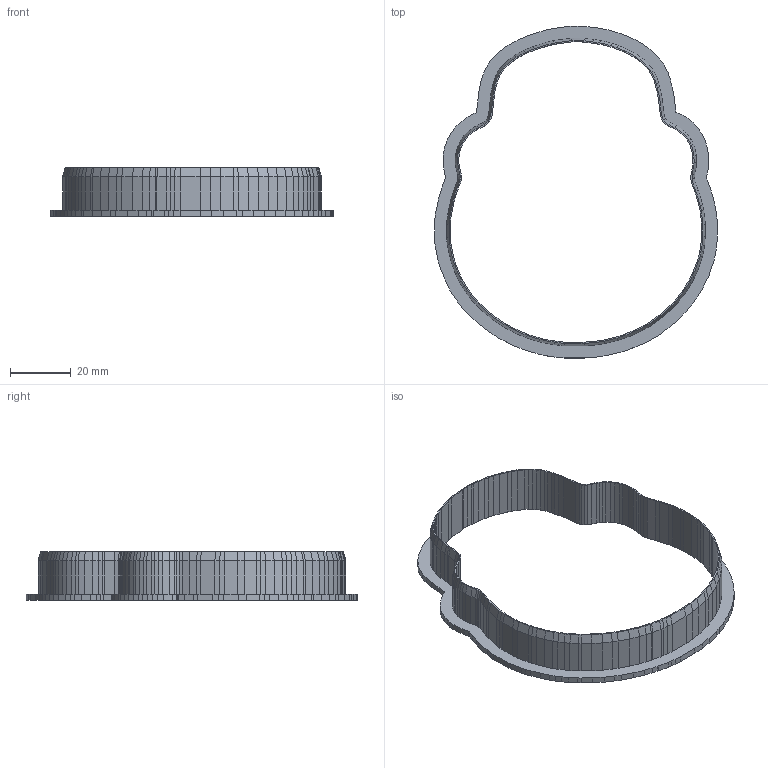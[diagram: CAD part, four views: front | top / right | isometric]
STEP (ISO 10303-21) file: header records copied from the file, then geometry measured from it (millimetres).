
FILE_DESCRIPTION(('Open CASCADE Model'),'2;1');
FILE_NAME('Open CASCADE Shape Model','2026-10-26T00:14:35',('Author'),( 'Open CASCADE'),'Open CASCADE STEP processor 7.9','Open CASCADE 7.9' ,'Unknown');
FILE_SCHEMA(('AUTOMOTIVE_DESIGN { 1 0 10303 214 1 1 1 1 }'));
Length unit declared in the file: millimetre
Products named in the file (1): Open CASCADE STEP translator 7.9 1
Bounding box: 93.1 x 109.26 x 16 mm (x, y, z)
Volume: 7856.3 mm3; surface area: 12568.6 mm2
Topology: 1 solids, 1 shells, 567 faces, 1549 edges, 985 vertices
Faces by surface type: plane 424, bspline 143
Entity records: 36534 total; most frequent: CARTESIAN_POINT 7605, DIRECTION 4521, LINE 3671, VECTOR 3671, ORIENTED_EDGE 3098, PCURVE 3098, DEFINITIONAL_REPRESENTATION 3098, EDGE_CURVE 1549
